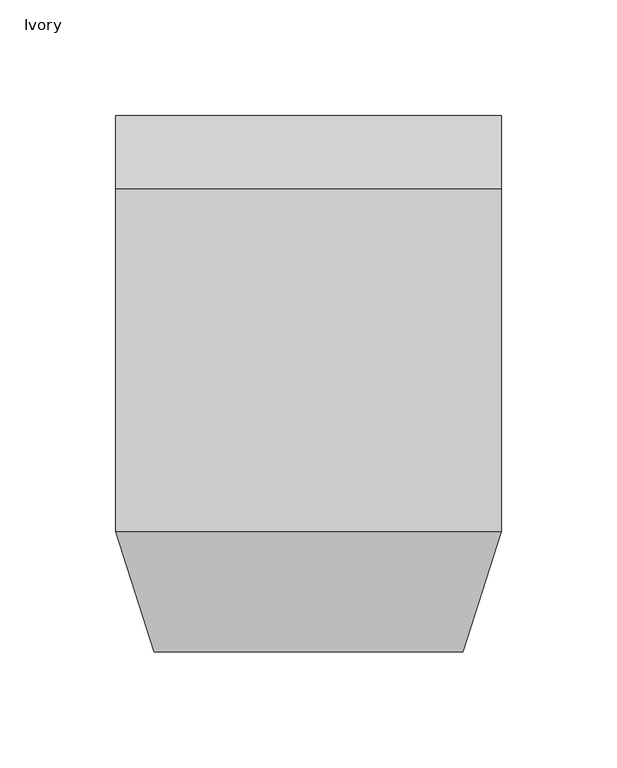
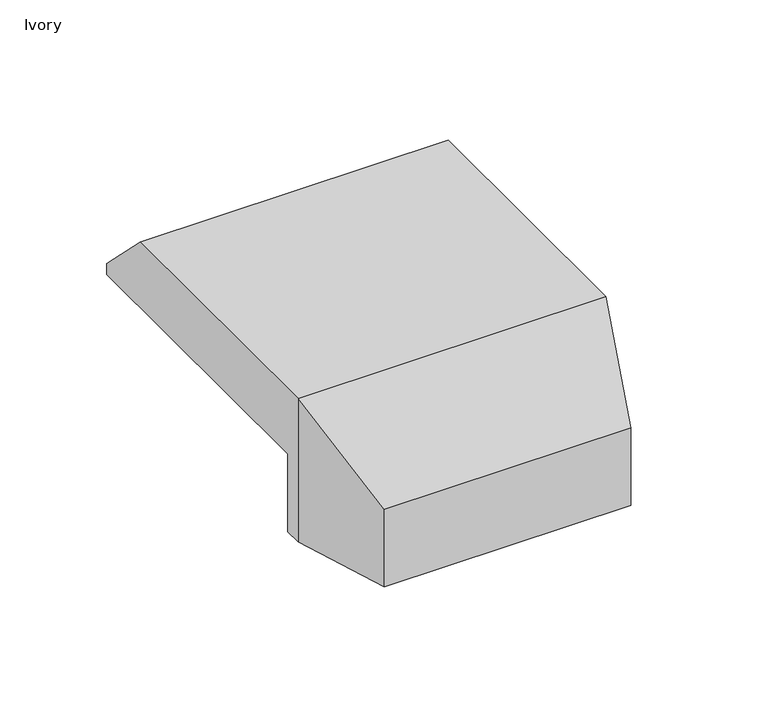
"""IFC4 building model written with IfcOpenShell, lengths in millimetres: proxy geometry, Transition_Fitting-5500_Series-Wiremold-5400 : Ivory."""

import ifcopenshell
import ifcopenshell.guid

model = None  # the IFC model being written
_history = None  # IfcOwnerHistory: only IFC2X3 demands one
_inside = {}  # id of a spatial element -> (the spatial element, [elements in it])
_under = {}  # id of a project, library or spatial element -> (it, [spatial elements below it])
_declared = {}  # id of a project -> (the project, [libraries it declares])
_typed = {}  # id of a type object -> (the type object, [elements of that type])
_made_of = {}  # id of a material, layer set ... -> (it, [elements and type objects made of it])


def new_model(schema):
    """Start an empty IFC model of exactly this schema.

    Asked for "IFC4X3", IfcOpenShell would pick the latest addendum, in which some entities
    have other attributes; the version numbers below select the first issue.
    IFC2X3 requires an IfcOwnerHistory on every rooted entity: one is made here for all.
    """
    global model, _history
    if schema == "IFC4X3":
        model = ifcopenshell.file(schema_version=(4, 3, 0, 0))
    else:
        model = ifcopenshell.file(schema=schema)
    _inside.clear()
    _under.clear()
    _declared.clear()
    _typed.clear()
    _made_of.clear()
    _history = None
    if model.schema == "IFC2X3":
        org = make("IfcOrganization", Name="unknown")
        user = make(
            "IfcPersonAndOrganization",
            ThePerson=make("IfcPerson", FamilyName="unknown"),
            TheOrganization=org,
        )
        app = make(
            "IfcApplication",
            ApplicationDeveloper=org,
            Version="unknown",
            ApplicationFullName="unknown",
            ApplicationIdentifier="unknown",
        )
        _history = make(
            "IfcOwnerHistory",
            OwningUser=user,
            OwningApplication=app,
            ChangeAction="ADDED",
            CreationDate=0,
        )
    return model


def make(cls, **values):
    """One entity of the class cls with the attributes given. An attribute that is None is left unset."""
    return model.create_entity(
        cls, **{name: value for name, value in values.items() if value is not None}
    )


def rooted(cls, **values):
    """An entity with a GlobalId (a new one), such as an element, a storey or a relation."""
    return make(cls, GlobalId=ifcopenshell.guid.new(), OwnerHistory=_history, **values)


def si_unit(unit_type, name, prefix=None):
    """IfcSIUnit, for example si_unit("LENGTHUNIT", "METRE", prefix="MILLI")."""
    return make("IfcSIUnit", UnitType=unit_type, Prefix=prefix, Name=name)


def assignment(units):
    """IfcUnitAssignment: the units of a project."""
    return None if units is None else make("IfcUnitAssignment", Units=units)


def point(xyz):
    """IfcCartesianPoint."""
    return None if xyz is None else make("IfcCartesianPoint", Coordinates=xyz)


def direction(xyz):
    """IfcDirection."""
    return None if xyz is None else make("IfcDirection", DirectionRatios=xyz)


def frame(location, z_axis=None, x_axis=None):
    """IfcAxis2Placement3D, a coordinate frame: its origin and axes. An axis left out is left unset."""
    return make(
        "IfcAxis2Placement3D",
        Location=point(location),
        Axis=direction(z_axis),
        RefDirection=direction(x_axis),
    )


def origin():
    """The frame at (0, 0, 0) with its axes left unset."""
    return frame((0.0, 0.0, 0.0))


def place(relative_to, where):
    """IfcLocalPlacement: puts the frame where relative to a parent placement (None: the world)."""
    return make(
        "IfcLocalPlacement", PlacementRelTo=relative_to, RelativePlacement=where
    )


def context(
    kind, dimensions, precision=None, world=None, true_north=None, identifier=None
):
    """IfcGeometricRepresentationContext, for example the 3D "Model" context."""
    return make(
        "IfcGeometricRepresentationContext",
        ContextIdentifier=identifier,
        ContextType=kind,
        CoordinateSpaceDimension=dimensions,
        Precision=precision,
        WorldCoordinateSystem=world,
        TrueNorth=true_north,
    )


def project(units=None, contexts=None):
    """IfcProject with its units and contexts."""
    return rooted(
        "IfcProject",
        Name="project",
        RepresentationContexts=contexts,
        UnitsInContext=assignment(units),
    )


def spatial(cls, under=None, at=None, **own):
    """A site, building, storey or space (cls), placed at a placement, below another one or the project."""
    s = rooted(cls, ObjectPlacement=at, **own)
    if under is not None:
        _under.setdefault(under.id(), (under, []))[1].append(s)
    return s


def faces_of(points, faces, orient=None, outer=None):
    """IfcFace entities. A face is a list of loops; a loop is a list of indices into points, from 0.

    orient and outer hold one flag for each loop. By default every Orientation is true, the
    first loop of a face is its IfcFaceOuterBound and the others are IfcFaceBound.
    """
    made = []
    for i, loops in enumerate(faces):
        bounds = []
        for j, loop in enumerate(loops):
            is_outer = j == 0 if outer is None else outer[i][j]
            bounds.append(
                make(
                    "IfcFaceOuterBound" if is_outer else "IfcFaceBound",
                    Bound=make("IfcPolyLoop", Polygon=[points[k] for k in loop]),
                    Orientation=True if orient is None else orient[i][j],
                )
            )
        made.append(make("IfcFace", Bounds=bounds))
    return made


def faceted_brep(points, faces, orient=None, outer=None, voids=None):
    """IfcFacetedBrep: a solid bounded by flat faces; with voids (closed shells), ...WithVoids."""
    shared = [point(p) for p in points]
    hull = make("IfcClosedShell", CfsFaces=faces_of(shared, faces, orient, outer))
    if voids is None:
        return make("IfcFacetedBrep", Outer=hull)
    return make(
        "IfcFacetedBrepWithVoids",
        Outer=hull,
        Voids=[
            make(cls, CfsFaces=faces_of(shared, fs, o, b)) for cls, fs, o, b in voids
        ],
    )


def shape(context_of_items, identifier, shape_type, items):
    """IfcShapeRepresentation: the items that make up one representation, for example the "Body"."""
    return make(
        "IfcShapeRepresentation",
        ContextOfItems=context_of_items,
        RepresentationIdentifier=identifier,
        RepresentationType=shape_type,
        Items=items,
    )


def source(mapping_origin, context_of_items, identifier, shape_type, items):
    """IfcRepresentationMap: a shape defined once, which mapped items show again and again."""
    return make(
        "IfcRepresentationMap",
        MappingOrigin=mapping_origin,
        MappedRepresentation=shape(context_of_items, identifier, shape_type, items),
    )


def transform(
    local_origin,
    x_axis=None,
    y_axis=None,
    z_axis=None,
    scale=None,
    scale2=None,
    scale3=None,
    uniform=True,
):
    """IfcCartesianTransformationOperator3D, or its non-uniform kind. x_axis, y_axis, z_axis: its Axis1, 2, 3."""
    if uniform:
        return make(
            "IfcCartesianTransformationOperator3D",
            Axis1=direction(x_axis),
            Axis2=direction(y_axis),
            LocalOrigin=point(local_origin),
            Scale=scale,
            Axis3=direction(z_axis),
        )
    return make(
        "IfcCartesianTransformationOperator3DnonUniform",
        Axis1=direction(x_axis),
        Axis2=direction(y_axis),
        LocalOrigin=point(local_origin),
        Scale=scale,
        Axis3=direction(z_axis),
        Scale2=scale2,
        Scale3=scale3,
    )


def mapped(mapping_source, mapping_target):
    """IfcMappedItem: shows the shape of a source again, moved by a transform."""
    return make(
        "IfcMappedItem", MappingSource=mapping_source, MappingTarget=mapping_target
    )


def made_of(thing, what):
    """Note that an element or type object is made of a material, layer set ...; save() writes the relation."""
    if what is not None:
        _made_of.setdefault(what.id(), (what, []))[1].append(thing)
    return thing


def element(
    cls,
    number,
    at=None,
    inside=None,
    cuts=None,
    type_object=None,
    material=None,
    context=None,
    identifier="Body",
    shape_type=None,
    held_by="IfcProductDefinitionShape",
    body=None,
    shapes=None,
    **own,
):
    """One element of the class cls, such as IfcWall. Its Tag is "e" and its number.

    at: its placement. inside: the storey or other place that contains it. cuts: it is an
    opening in that element (IfcRelVoidsElement). A single representation is given by context,
    identifier, shape_type and body (its items); several are given by shapes. held_by: the class
    of the entity that holds the representations. save() writes the other relations.
    """
    e = rooted(cls, Tag="e%d" % number, ObjectPlacement=at, **own)
    if body is not None:
        shapes = [shape(context, identifier, shape_type, body)]
    if shapes is not None:
        e.Representation = make(held_by, Representations=shapes)
    if inside is not None:
        _inside.setdefault(inside.id(), (inside, []))[1].append(e)
    if cuts is not None:
        rooted(
            "IfcRelVoidsElement", RelatingBuildingElement=cuts, RelatedOpeningElement=e
        )
    if type_object is not None:
        _typed.setdefault(type_object.id(), (type_object, []))[1].append(e)
    return made_of(e, material)


def aggregate(whole, parts):
    """IfcRelAggregates: a whole, such as a stair, and the parts it consists of."""
    return rooted("IfcRelAggregates", RelatingObject=whole, RelatedObjects=parts)


def save(model, path):
    """Write the relations noted so far, then the file.

    IfcRelAggregates (storeys below a building ...), IfcRelContainedInSpatialStructure (elements
    in a storey), IfcRelDefinesByType, IfcRelAssociatesMaterial and IfcRelDeclares: one each for
    every whole, place, type object, material and project.
    """
    for whole, parts in _under.values():
        aggregate(whole, parts)
    for where, things in _inside.values():
        rooted(
            "IfcRelContainedInSpatialStructure",
            RelatedElements=things,
            RelatingStructure=where,
        )
    for kind, things in _typed.values():
        rooted("IfcRelDefinesByType", RelatedObjects=things, RelatingType=kind)
    for what, things in _made_of.values():
        rooted("IfcRelAssociatesMaterial", RelatedObjects=things, RelatingMaterial=what)
    for by, libraries in _declared.values():
        rooted("IfcRelDeclares", RelatingContext=by, RelatedDefinitions=libraries)
    model.write(path)


def ivory_71392ab2(model_context):
    return source(origin(), model_context, "Body", "Brep", [
        faceted_brep([(83.3501, -94.7468498, 37.846), (83.3501, -94.7468498, -44.45), (83.3501, -84.9376, -44.45), (83.3501, -84.9376, 0.0), (83.3501, 84.9376, 0.0), (83.3501, 84.9376, 6.096), (83.3501, 53.1876, 37.846), (-83.3501, -84.9376, -44.45), (-83.3501, -94.7468498, -44.45), (-83.3501, -94.7468498, 37.846), (-83.3501, 53.1876, 37.846), (-83.3501, 84.9376, 6.096), (-83.3501, 84.9376, 0.0), (-83.3501, -84.9376, 0.0), (66.675, -146.8374, -44.45), (-66.675, -146.8374, -44.45), (66.675, -146.8374, 0.0), (-66.675, -146.8374, 0.0)], [[[0, 1, 2, 3, 4, 5, 6]], [[7, 8, 9, 10, 11, 12, 13]], [[6, 10, 9, 0]], [[5, 11, 10, 6]], [[4, 12, 11, 5]], [[3, 13, 12, 4]], [[2, 7, 13, 3]], [[2, 1, 14, 15, 8, 7]], [[14, 16, 17, 15]], [[9, 17, 16, 0]], [[0, 16, 14, 1]], [[8, 15, 17, 9]]]),
    ])


if __name__ == "__main__":
    model = new_model("IFC4")
    model_context = context("Model", 3, world=origin())
    ifc_project = project(units=[si_unit("LENGTHUNIT", "METRE", prefix="MILLI")], contexts=[model_context])
    site = spatial("IfcSite", under=ifc_project)
    building = spatial("IfcBuilding", under=site)
    placement = place(None, origin())
    ivory_shape = ivory_71392ab2(model_context)
    element("IfcBuildingElementProxy", 1, Name="Transition_Fitting-5500_Series-Wiremold-5400 : Ivory", ObjectType="Transition_Fitting-5500_Series-Wiremold-5400 : Ivory", at=placement, inside=building, context=model_context, shape_type="MappedRepresentation", body=[
        mapped(ivory_shape, transform((0.0, 0.0, 0.0), x_axis=(1.0, 0.0, 0.0), y_axis=(0.0, 1.0, 0.0), z_axis=(0.0, 0.0, 1.0))),
    ])
    save(model, "model.ifc")
